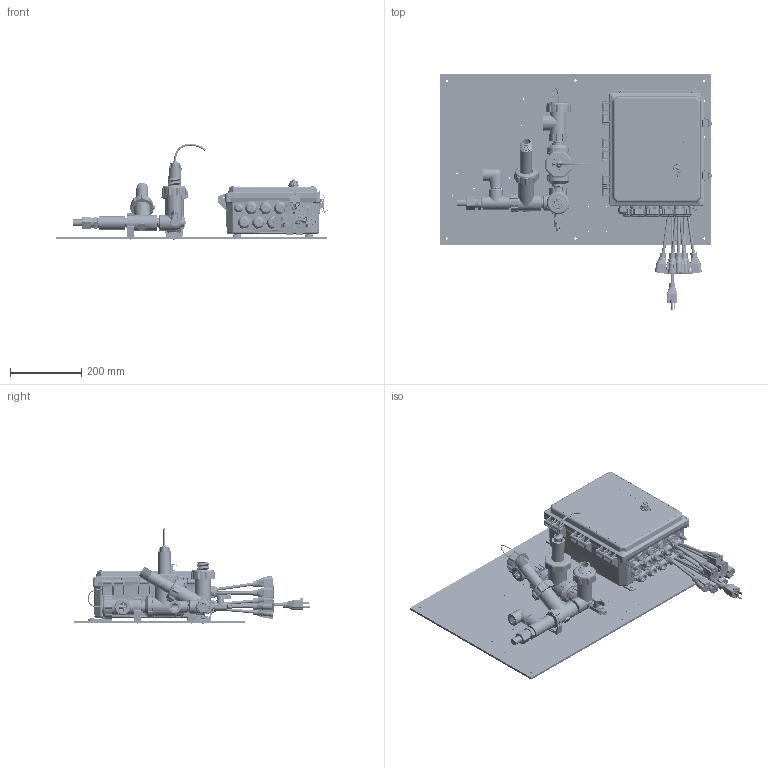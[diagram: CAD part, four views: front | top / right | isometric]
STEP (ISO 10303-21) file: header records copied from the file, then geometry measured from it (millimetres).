
FILE_DESCRIPTION (( 'STEP AP203' ), '1' );
FILE_NAME ('W900-CT-PAFOPN.STEP', '2019-04-26T17:42:09', ( '' ), ( '' ), 'SwSTEP 2.0', 'SolidWorks 2019', '' );
FILE_SCHEMA (( 'CONFIG_CONTROL_DESIGN' ));
Length unit declared in the file: inch
Products named in the file (58): SHELL-102586; SHELL-103283-FT; IMS0040; SHELL-102884; 103861; 192606-PIN; SHELL-103886_98273A320; SHELL-102594; IMS0038; Flow Switch Assembly; IMS0035_91500A537; IMS0039; SHELL-102884wo; ISA0006; SHELL-WEL-XXX-NN; 102961ws; SHELL-102880; SHELL-103425_4882K14; SHELL-103893_91772A829; IMS0041; SHELL-191965-06; SHELL-103778; SHELL-102986; SHELL-102061; 102907; IMS0042; SHELL-104203; SHELL-191652; SHELL-190996; SHELL-102423; 102903_102903; SHELL-ST-500; SHELL-191965-06-104203; SHELL-103859_Cord1; IMS0013; SHELL-102881; IMS0005; SHELL-102938; SHELL-102879-XX_102879-01; 102906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
Assembly tree (97 placements, depth 6):
  W900-CT-PAFOPN
    SHELL-102938
    W900 Shell
      W900 Shell
      SHELL-103283-FT  x4
      IMS0035_91500A537  x4
      SHELL-103893_91772A829  x4
      ISA0006
        102907
        102903_102903
        102906
        103860_Cord1  x3
        103861
      ISA0006
        102907
        102903_102903
        102906
        103860_Cord1  x3
        103861
      ISA0006
        102907
        102903_102903
        102906
        103860_Cord1  x3
        103861
      SHELL-103859_Cord1
    102961ws
      SHELL-102961_30075T212
      SHELL-103886_98273A320
    102961ws
      SHELL-102961_30075T212
      SHELL-103886_98273A320
    102961ws
      SHELL-102961_30075T212
      SHELL-103886_98273A320
    W900-CT-PAFOPN Manifold
      Flow Switch Assembly
        SHELL-102881
        SHELL-191020-XX
          SHELL-102882
          SHELL-102919
          SHELL-102594
          SHELL-190996
            SHELL-102880
            SHELL-102986  x2
          IMS0005
        SHELL-102586
      SHELL-103425_4882K14  x5
      SHELL-102061
      SHELL-102423
      SHELL-102879-XXwo
        SHELL-102879-XX_102879-01
        SHELL-102594
      SHELL-102884wo
        SHELL-102884
        SHELL-102594
      SHELL-191965-06-104203
        SHELL-191965-06
        SHELL-104203
      SHELL-191646-XX
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Bounding box: 764.69 x 665.28 x 271.17 mm (x, y, z)
Volume: 5676811.4 mm3; surface area: 2405001.2 mm2
Topology: 128 solids, 131 shells, 18735 faces, 49065 edges, 30760 vertices
Faces by surface type: plane 7799, cylinder 5473, bspline 3492, cone 1238, torus 591, sphere 142
Entity records: 750371 total; most frequent: CARTESIAN_POINT 419627, ORIENTED_EDGE 76876, DIRECTION 54605, EDGE_CURVE 38442, VERTEX_POINT 24214, AXIS2_PLACEMENT_3D 18992, VECTOR 16621, LINE 16621
